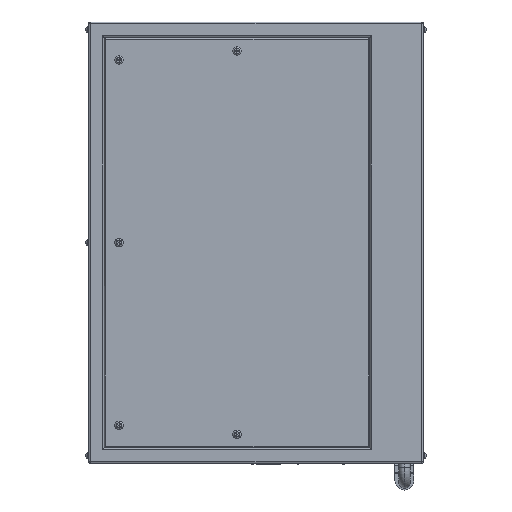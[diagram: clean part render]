
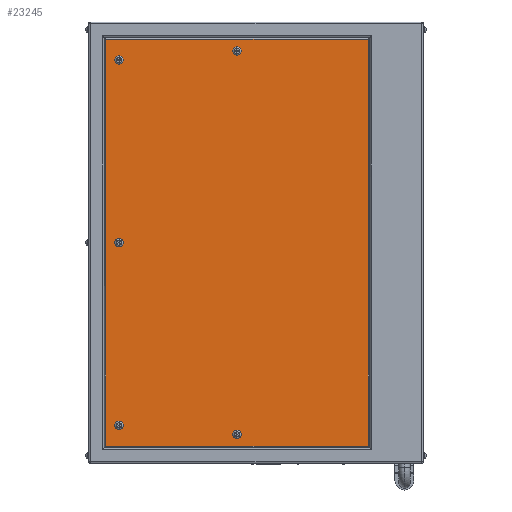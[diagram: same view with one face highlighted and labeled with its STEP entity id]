
A CAD part, left-side view. The second image highlights one B-rep face of the part: STEP entity #23245.
In plain terms, the highlighted planar face has unit normal (-1, 0, 0).
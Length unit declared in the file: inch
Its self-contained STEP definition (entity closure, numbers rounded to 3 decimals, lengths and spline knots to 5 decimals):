
#77 = VERTEX_POINT ( 'NONE', #21497 ) ;
#129 = VERTEX_POINT ( 'NONE', #19864 ) ;
#232 = ORIENTED_EDGE ( 'NONE', *, *, #5633, .T. ) ;
#420 = VERTEX_POINT ( 'NONE', #9221 ) ;
#447 = DIRECTION ( 'NONE',  ( 1., 0., 0. ) ) ;
#474 = DIRECTION ( 'NONE',  ( 0., 0., 1. ) ) ;
#598 = VERTEX_POINT ( 'NONE', #16638 ) ;
#599 = DIRECTION ( 'NONE',  ( 0., -1., 0. ) ) ;
#961 = LINE ( 'NONE', #13814, #17883 ) ;
#1079 = EDGE_LOOP ( 'NONE', ( #12002, #5177 ) ) ;
#1170 = DIRECTION ( 'NONE',  ( 1., 0., 0. ) ) ;
#1494 = CARTESIAN_POINT ( 'NONE',  ( -12., 2.5, -25.74 ) ) ;
#1632 = CIRCLE ( 'NONE', #20617, 0.55 ) ;
#1675 = DIRECTION ( 'NONE',  ( 1., 0., 0. ) ) ;
#1717 = EDGE_CURVE ( 'NONE', #15125, #9885, #10675, .T. ) ;
#1788 = CARTESIAN_POINT ( 'NONE',  ( -12., 2.5, -25.19 ) ) ;
#1840 = AXIS2_PLACEMENT_3D ( 'NONE', #4455, #4344, #2549 ) ;
#1906 = CARTESIAN_POINT ( 'NONE',  ( -12., 18., 0. ) ) ;
#2326 = FACE_BOUND ( 'NONE', #1079, .T. ) ;
#2488 = CARTESIAN_POINT ( 'NONE',  ( -12., 19.74, -26.74 ) ) ;
#2530 = DIRECTION ( 'NONE',  ( 0., 1., 0. ) ) ;
#2549 = DIRECTION ( 'NONE',  ( 0., 0., -1. ) ) ;
#3072 = EDGE_CURVE ( 'NONE', #21778, #17416, #23532, .T. ) ;
#3129 = EDGE_LOOP ( 'NONE', ( #19750, #232 ) ) ;
#4057 = LINE ( 'NONE', #18782, #20125 ) ;
#4239 = FACE_BOUND ( 'NONE', #3129, .T. ) ;
#4335 = EDGE_CURVE ( 'NONE', #9928, #21778, #22862, .T. ) ;
#4344 = DIRECTION ( 'NONE',  ( 1., 0., 0. ) ) ;
#4455 = CARTESIAN_POINT ( 'NONE',  ( -12., 22., -29. ) ) ;
#4516 = CARTESIAN_POINT ( 'NONE',  ( -12., 18., 0.55 ) ) ;
#4686 = ORIENTED_EDGE ( 'NONE', *, *, #16266, .T. ) ;
#5040 = CIRCLE ( 'NONE', #14895, 0.55 ) ;
#5177 = ORIENTED_EDGE ( 'NONE', *, *, #7516, .T. ) ;
#5232 = CIRCLE ( 'NONE', #21537, 0.55 ) ;
#5363 = DIRECTION ( 'NONE',  ( 0., 0., -1. ) ) ;
#5633 = EDGE_CURVE ( 'NONE', #22155, #22926, #17059, .T. ) ;
#6444 = VECTOR ( 'NONE', #7268, 39.37008 ) ;
#6798 = AXIS2_PLACEMENT_3D ( 'NONE', #14380, #16243, #5363 ) ;
#7072 = ORIENTED_EDGE ( 'NONE', *, *, #4335, .T. ) ;
#7252 = AXIS2_PLACEMENT_3D ( 'NONE', #14733, #9258, #10944 ) ;
#7268 = DIRECTION ( 'NONE',  ( 0., 0., -1. ) ) ;
#7451 = ORIENTED_EDGE ( 'NONE', *, *, #19613, .T. ) ;
#7516 = EDGE_CURVE ( 'NONE', #420, #19403, #17037, .T. ) ;
#8742 = EDGE_CURVE ( 'NONE', #22926, #22155, #14877, .T. ) ;
#8889 = CARTESIAN_POINT ( 'NONE',  ( -12., 18., 24.55 ) ) ;
#8940 = DIRECTION ( 'NONE',  ( 1., 0., 0. ) ) ;
#9170 = CARTESIAN_POINT ( 'NONE',  ( -12., 18., -24.55 ) ) ;
#9171 = AXIS2_PLACEMENT_3D ( 'NONE', #20797, #1170, #16972 ) ;
#9221 = CARTESIAN_POINT ( 'NONE',  ( -12., 18., -23.45 ) ) ;
#9258 = DIRECTION ( 'NONE',  ( 1., 0., 0. ) ) ;
#9576 = FACE_BOUND ( 'NONE', #21999, .T. ) ;
#9885 = VERTEX_POINT ( 'NONE', #1494 ) ;
#9910 = CARTESIAN_POINT ( 'NONE',  ( -12., 2.5, -24.64 ) ) ;
#9928 = VERTEX_POINT ( 'NONE', #22999 ) ;
#10093 = DIRECTION ( 'NONE',  ( 1., 0., 0. ) ) ;
#10322 = DIRECTION ( 'NONE',  ( 0., 0., -1. ) ) ;
#10476 = DIRECTION ( 'NONE',  ( 0., 0., 1. ) ) ;
#10646 = VERTEX_POINT ( 'NONE', #8889 ) ;
#10675 = CIRCLE ( 'NONE', #22442, 0.55 ) ;
#10944 = DIRECTION ( 'NONE',  ( 0., 0., -1. ) ) ;
#11176 = CARTESIAN_POINT ( 'NONE',  ( -12., 18., 23.45 ) ) ;
#12002 = ORIENTED_EDGE ( 'NONE', *, *, #18558, .T. ) ;
#12188 = CARTESIAN_POINT ( 'NONE',  ( -12., 18., 0. ) ) ;
#12257 = ORIENTED_EDGE ( 'NONE', *, *, #19747, .T. ) ;
#12359 = DIRECTION ( 'NONE',  ( 0., 0., -1. ) ) ;
#12512 = DIRECTION ( 'NONE',  ( 1., 0., 0. ) ) ;
#12963 = DIRECTION ( 'NONE',  ( 1., 0., 0. ) ) ;
#13032 = FACE_BOUND ( 'NONE', #21528, .T. ) ;
#13631 = ORIENTED_EDGE ( 'NONE', *, *, #22503, .T. ) ;
#13814 = CARTESIAN_POINT ( 'NONE',  ( -12., 22., -26.74 ) ) ;
#14380 = CARTESIAN_POINT ( 'NONE',  ( -12., 18., -24. ) ) ;
#14423 = EDGE_LOOP ( 'NONE', ( #12257, #19396 ) ) ;
#14676 = CARTESIAN_POINT ( 'NONE',  ( -12., 19.74, 26.74 ) ) ;
#14733 = CARTESIAN_POINT ( 'NONE',  ( -12., 2.5, 25.19 ) ) ;
#14854 = DIRECTION ( 'NONE',  ( 0., 0., -1. ) ) ;
#14877 = CIRCLE ( 'NONE', #17922, 0.55 ) ;
#14895 = AXIS2_PLACEMENT_3D ( 'NONE', #21777, #1675, #16147 ) ;
#15125 = VERTEX_POINT ( 'NONE', #9910 ) ;
#15325 = CIRCLE ( 'NONE', #23440, 0.55 ) ;
#15359 = EDGE_CURVE ( 'NONE', #10646, #16530, #21714, .T. ) ;
#15604 = ORIENTED_EDGE ( 'NONE', *, *, #3072, .T. ) ;
#16147 = DIRECTION ( 'NONE',  ( 0., 0., -1. ) ) ;
#16188 = EDGE_CURVE ( 'NONE', #77, #9928, #4057, .T. ) ;
#16243 = DIRECTION ( 'NONE',  ( 1., 0., 0. ) ) ;
#16266 = EDGE_CURVE ( 'NONE', #598, #129, #18239, .T. ) ;
#16530 = VERTEX_POINT ( 'NONE', #11176 ) ;
#16638 = CARTESIAN_POINT ( 'NONE',  ( -12., 2.5, 24.64 ) ) ;
#16696 = FACE_OUTER_BOUND ( 'NONE', #19529, .T. ) ;
#16972 = DIRECTION ( 'NONE',  ( 0., 0., -1. ) ) ;
#17037 = CIRCLE ( 'NONE', #6798, 0.55 ) ;
#17059 = CIRCLE ( 'NONE', #20105, 0.55 ) ;
#17198 = EDGE_CURVE ( 'NONE', #129, #598, #5040, .T. ) ;
#17384 = CARTESIAN_POINT ( 'NONE',  ( -12., 22., 26.74 ) ) ;
#17416 = VERTEX_POINT ( 'NONE', #2488 ) ;
#17484 = VECTOR ( 'NONE', #2530, 39.37008 ) ;
#17492 = ORIENTED_EDGE ( 'NONE', *, *, #16188, .T. ) ;
#17883 = VECTOR ( 'NONE', #599, 39.37008 ) ;
#17922 = AXIS2_PLACEMENT_3D ( 'NONE', #12188, #8940, #23236 ) ;
#17923 = ORIENTED_EDGE ( 'NONE', *, *, #15359, .T. ) ;
#18239 = CIRCLE ( 'NONE', #7252, 0.55 ) ;
#18558 = EDGE_CURVE ( 'NONE', #19403, #420, #1632, .T. ) ;
#18782 = CARTESIAN_POINT ( 'NONE',  ( -12., -14.74, -29. ) ) ;
#18824 = FACE_BOUND ( 'NONE', #14423, .T. ) ;
#19211 = DIRECTION ( 'NONE',  ( 1., 0., 0. ) ) ;
#19396 = ORIENTED_EDGE ( 'NONE', *, *, #1717, .T. ) ;
#19403 = VERTEX_POINT ( 'NONE', #9170 ) ;
#19529 = EDGE_LOOP ( 'NONE', ( #13631, #17492, #7072, #15604 ) ) ;
#19613 = EDGE_CURVE ( 'NONE', #16530, #10646, #15325, .T. ) ;
#19747 = EDGE_CURVE ( 'NONE', #9885, #15125, #5232, .T. ) ;
#19750 = ORIENTED_EDGE ( 'NONE', *, *, #8742, .T. ) ;
#19864 = CARTESIAN_POINT ( 'NONE',  ( -12., 2.5, 25.74 ) ) ;
#19956 = CARTESIAN_POINT ( 'NONE',  ( -12., 18., -0.55 ) ) ;
#19963 = CARTESIAN_POINT ( 'NONE',  ( -12., 2.5, -25.19 ) ) ;
#20105 = AXIS2_PLACEMENT_3D ( 'NONE', #1906, #447, #14854 ) ;
#20125 = VECTOR ( 'NONE', #474, 39.37008 ) ;
#20617 = AXIS2_PLACEMENT_3D ( 'NONE', #22912, #19211, #10322 ) ;
#20797 = CARTESIAN_POINT ( 'NONE',  ( -12., 18., 24. ) ) ;
#21497 = CARTESIAN_POINT ( 'NONE',  ( -12., -14.74, -26.74 ) ) ;
#21528 = EDGE_LOOP ( 'NONE', ( #4686, #21798 ) ) ;
#21537 = AXIS2_PLACEMENT_3D ( 'NONE', #19963, #12963, #21629 ) ;
#21629 = DIRECTION ( 'NONE',  ( 0., 0., 1. ) ) ;
#21714 = CIRCLE ( 'NONE', #9171, 0.55 ) ;
#21777 = CARTESIAN_POINT ( 'NONE',  ( -12., 2.5, 25.19 ) ) ;
#21778 = VERTEX_POINT ( 'NONE', #14676 ) ;
#21798 = ORIENTED_EDGE ( 'NONE', *, *, #17198, .T. ) ;
#21999 = EDGE_LOOP ( 'NONE', ( #7451, #17923 ) ) ;
#22155 = VERTEX_POINT ( 'NONE', #4516 ) ;
#22269 = PLANE ( 'NONE',  #1840 ) ;
#22442 = AXIS2_PLACEMENT_3D ( 'NONE', #1788, #12512, #10476 ) ;
#22503 = EDGE_CURVE ( 'NONE', #17416, #77, #961, .T. ) ;
#22857 = CARTESIAN_POINT ( 'NONE',  ( -12., 19.74, -29. ) ) ;
#22862 = LINE ( 'NONE', #17384, #17484 ) ;
#22912 = CARTESIAN_POINT ( 'NONE',  ( -12., 18., -24. ) ) ;
#22926 = VERTEX_POINT ( 'NONE', #19956 ) ;
#22999 = CARTESIAN_POINT ( 'NONE',  ( -12., -14.74, 26.74 ) ) ;
#23042 = CARTESIAN_POINT ( 'NONE',  ( -12., 18., 24. ) ) ;
#23236 = DIRECTION ( 'NONE',  ( 0., 0., -1. ) ) ;
#23245 = ADVANCED_FACE ( 'NONE', ( #18824, #13032, #2326, #4239, #9576, #16696 ), #22269, .F. ) ;
#23440 = AXIS2_PLACEMENT_3D ( 'NONE', #23042, #10093, #12359 ) ;
#23532 = LINE ( 'NONE', #22857, #6444 ) ;
